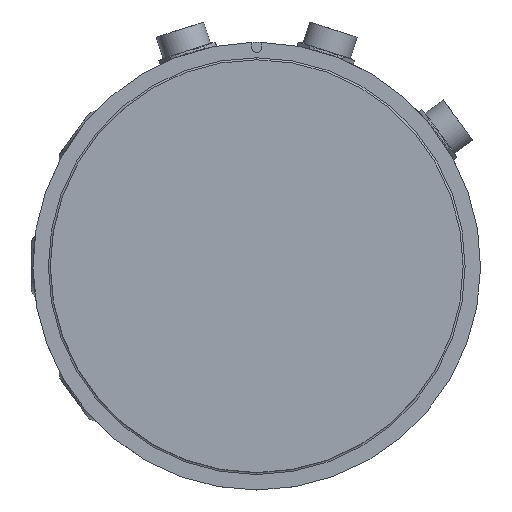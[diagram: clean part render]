
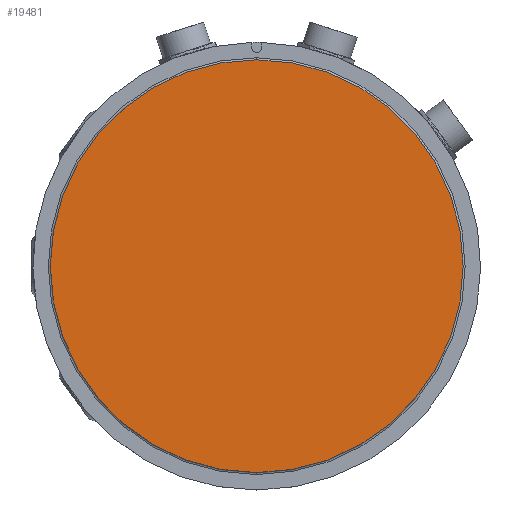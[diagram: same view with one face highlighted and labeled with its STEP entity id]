
A CAD part, left-side view. The second image highlights one B-rep face of the part: STEP entity #19481.
In plain terms, the highlighted planar face has unit normal (-1, 0, 0).
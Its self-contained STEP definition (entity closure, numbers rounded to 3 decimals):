
#2487 = ORIENTED_EDGE ( 'NONE', *, *, #23731, .F. ) ;
#2787 = VERTEX_POINT ( 'NONE', #13887 ) ;
#3611 = CIRCLE ( 'NONE', #10084, 41.5 ) ;
#7060 = EDGE_CURVE ( 'NONE', #21707, #2787, #15918, .T. ) ;
#8916 = DIRECTION ( 'NONE',  ( 1., 0., 0. ) ) ;
#10084 = AXIS2_PLACEMENT_3D ( 'NONE', #19775, #8916, #33365 ) ;
#12638 = CARTESIAN_POINT ( 'NONE',  ( 935.9, -100.9, 1314. ) ) ;
#13854 = DIRECTION ( 'NONE',  ( 0., 0., -1. ) ) ;
#13887 = CARTESIAN_POINT ( 'NONE',  ( 935.9, -100.9, 1231. ) ) ;
#15336 = FACE_OUTER_BOUND ( 'NONE', #15577, .T. ) ;
#15577 = EDGE_LOOP ( 'NONE', ( #2487, #15669 ) ) ;
#15669 = ORIENTED_EDGE ( 'NONE', *, *, #7060, .F. ) ;
#15918 = CIRCLE ( 'NONE', #26442, 41.5 ) ;
#17708 = PLANE ( 'NONE',  #35257 ) ;
#19481 = ADVANCED_FACE ( 'NONE', ( #15336 ), #17708, .T. ) ;
#19775 = CARTESIAN_POINT ( 'NONE',  ( 935.9, -100.9, 1272.5 ) ) ;
#20273 = CARTESIAN_POINT ( 'NONE',  ( 935.9, -100.9, 1272.5 ) ) ;
#21707 = VERTEX_POINT ( 'NONE', #12638 ) ;
#22474 = CARTESIAN_POINT ( 'NONE',  ( 935.9, -100.9, 1272.5 ) ) ;
#23731 = EDGE_CURVE ( 'NONE', #2787, #21707, #3611, .T. ) ;
#23761 = DIRECTION ( 'NONE',  ( 0., 0., -1. ) ) ;
#26319 = DIRECTION ( 'NONE',  ( -1., 0., 0. ) ) ;
#26442 = AXIS2_PLACEMENT_3D ( 'NONE', #22474, #28496, #13854 ) ;
#28496 = DIRECTION ( 'NONE',  ( 1., 0., 0. ) ) ;
#33365 = DIRECTION ( 'NONE',  ( 0., 0., -1. ) ) ;
#35257 = AXIS2_PLACEMENT_3D ( 'NONE', #20273, #26319, #23761 ) ;
